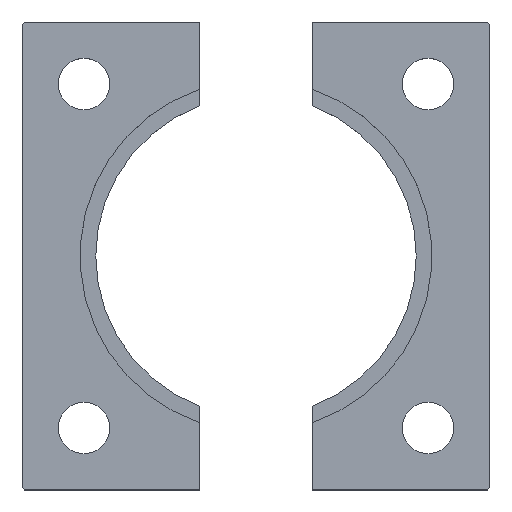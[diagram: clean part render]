
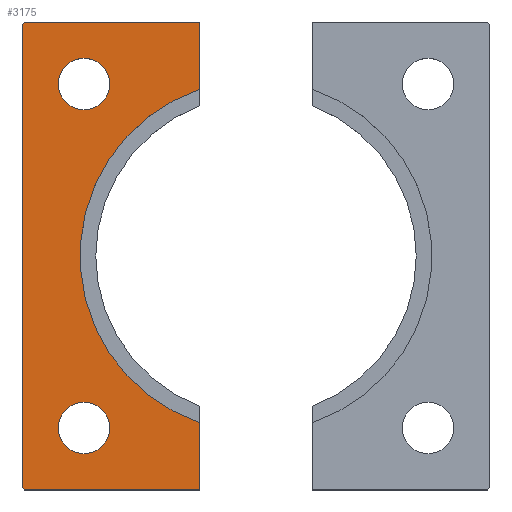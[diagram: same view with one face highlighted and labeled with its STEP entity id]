
A CAD part, top view. The second image highlights one B-rep face of the part: STEP entity #3175.
In plain terms, the highlighted planar face has unit normal (0, 0, 1).
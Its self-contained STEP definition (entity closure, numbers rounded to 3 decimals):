
#236=FACE_BOUND('',#538,.T.);
#237=FACE_BOUND('',#539,.T.);
#259=PLANE('',#3378);
#358=FACE_OUTER_BOUND('',#537,.T.);
#537=EDGE_LOOP('',(#2207,#2208,#2209,#2210,#2211,#2212,#2213,#2214));
#538=EDGE_LOOP('',(#2215));
#539=EDGE_LOOP('',(#2216));
#737=CIRCLE('',#3375,37.6);
#739=CIRCLE('',#3379,5.5);
#740=CIRCLE('',#3380,5.5);
#756=LINE('',#4080,#1077);
#757=LINE('',#4082,#1078);
#758=LINE('',#4084,#1079);
#759=LINE('',#4086,#1080);
#760=LINE('',#4088,#1081);
#761=LINE('',#4090,#1082);
#762=LINE('',#4091,#1083);
#1077=VECTOR('',#3513,10.);
#1078=VECTOR('',#3514,10.);
#1079=VECTOR('',#3515,10.);
#1080=VECTOR('',#3516,10.);
#1081=VECTOR('',#3517,10.);
#1082=VECTOR('',#3518,10.);
#1083=VECTOR('',#3519,10.);
#1395=VERTEX_POINT('',#4065);
#1397=VERTEX_POINT('',#4069);
#1400=VERTEX_POINT('',#4079);
#1401=VERTEX_POINT('',#4081);
#1402=VERTEX_POINT('',#4083);
#1403=VERTEX_POINT('',#4085);
#1404=VERTEX_POINT('',#4087);
#1405=VERTEX_POINT('',#4089);
#1406=VERTEX_POINT('',#4092);
#1407=VERTEX_POINT('',#4094);
#1719=EDGE_CURVE('',#1395,#1397,#737,.T.);
#1723=EDGE_CURVE('',#1400,#1397,#756,.T.);
#1724=EDGE_CURVE('',#1401,#1400,#757,.T.);
#1725=EDGE_CURVE('',#1402,#1401,#758,.T.);
#1726=EDGE_CURVE('',#1403,#1402,#759,.T.);
#1727=EDGE_CURVE('',#1404,#1403,#760,.T.);
#1728=EDGE_CURVE('',#1405,#1404,#761,.T.);
#1729=EDGE_CURVE('',#1395,#1405,#762,.T.);
#1730=EDGE_CURVE('',#1406,#1406,#739,.T.);
#1731=EDGE_CURVE('',#1407,#1407,#740,.T.);
#2207=ORIENTED_EDGE('',*,*,#1719,.T.);
#2208=ORIENTED_EDGE('',*,*,#1723,.F.);
#2209=ORIENTED_EDGE('',*,*,#1724,.F.);
#2210=ORIENTED_EDGE('',*,*,#1725,.F.);
#2211=ORIENTED_EDGE('',*,*,#1726,.F.);
#2212=ORIENTED_EDGE('',*,*,#1727,.F.);
#2213=ORIENTED_EDGE('',*,*,#1728,.F.);
#2214=ORIENTED_EDGE('',*,*,#1729,.F.);
#2215=ORIENTED_EDGE('',*,*,#1730,.T.);
#2216=ORIENTED_EDGE('',*,*,#1731,.T.);
#3175=ADVANCED_FACE('',(#358,#236,#237),#259,.T.);
#3375=AXIS2_PLACEMENT_3D('',#4071,#3503,#3504);
#3378=AXIS2_PLACEMENT_3D('',#4078,#3511,#3512);
#3379=AXIS2_PLACEMENT_3D('',#4093,#3520,#3521);
#3380=AXIS2_PLACEMENT_3D('',#4095,#3522,#3523);
#3503=DIRECTION('center_axis',(0.,0.,-1.));
#3504=DIRECTION('ref_axis',(-1.,0.,0.));
#3511=DIRECTION('center_axis',(0.,0.,1.));
#3512=DIRECTION('ref_axis',(1.,0.,0.));
#3513=DIRECTION('',(0.,-1.,0.));
#3514=DIRECTION('',(1.,0.,0.));
#3515=DIRECTION('',(0.707,0.707,0.));
#3516=DIRECTION('',(0.,1.,0.));
#3517=DIRECTION('',(-0.707,0.707,0.));
#3518=DIRECTION('',(-1.,0.,0.));
#3519=DIRECTION('',(0.,-1.,0.));
#3520=DIRECTION('center_axis',(0.,0.,-1.));
#3521=DIRECTION('ref_axis',(-1.,0.,0.));
#3522=DIRECTION('center_axis',(0.,0.,-1.));
#3523=DIRECTION('ref_axis',(-1.,0.,0.));
#4065=CARTESIAN_POINT('',(-12.,-35.634,12.));
#4069=CARTESIAN_POINT('',(-12.,35.634,12.));
#4071=CARTESIAN_POINT('Origin',(0.,0.,12.));
#4078=CARTESIAN_POINT('Origin',(-30.959,0.,
12.));
#4079=CARTESIAN_POINT('',(-12.,50.,12.));
#4080=CARTESIAN_POINT('',(-12.,-50.,12.));
#4081=CARTESIAN_POINT('',(-49.5,50.,12.));
#4082=CARTESIAN_POINT('',(-12.,50.,12.));
#4083=CARTESIAN_POINT('',(-50.,49.5,12.));
#4084=CARTESIAN_POINT('',(-49.5,50.,12.));
#4085=CARTESIAN_POINT('',(-50.,-49.5,12.));
#4086=CARTESIAN_POINT('',(-50.,49.5,12.));
#4087=CARTESIAN_POINT('',(-49.5,-50.,12.));
#4088=CARTESIAN_POINT('',(-50.,-49.5,12.));
#4089=CARTESIAN_POINT('',(-12.,-50.,12.));
#4090=CARTESIAN_POINT('',(-49.5,-50.,12.));
#4091=CARTESIAN_POINT('',(-12.,-50.,12.));
#4092=CARTESIAN_POINT('',(-31.25,-36.75,12.));
#4093=CARTESIAN_POINT('Origin',(-36.75,-36.75,12.));
#4094=CARTESIAN_POINT('',(-31.25,36.75,12.));
#4095=CARTESIAN_POINT('Origin',(-36.75,36.75,12.));
